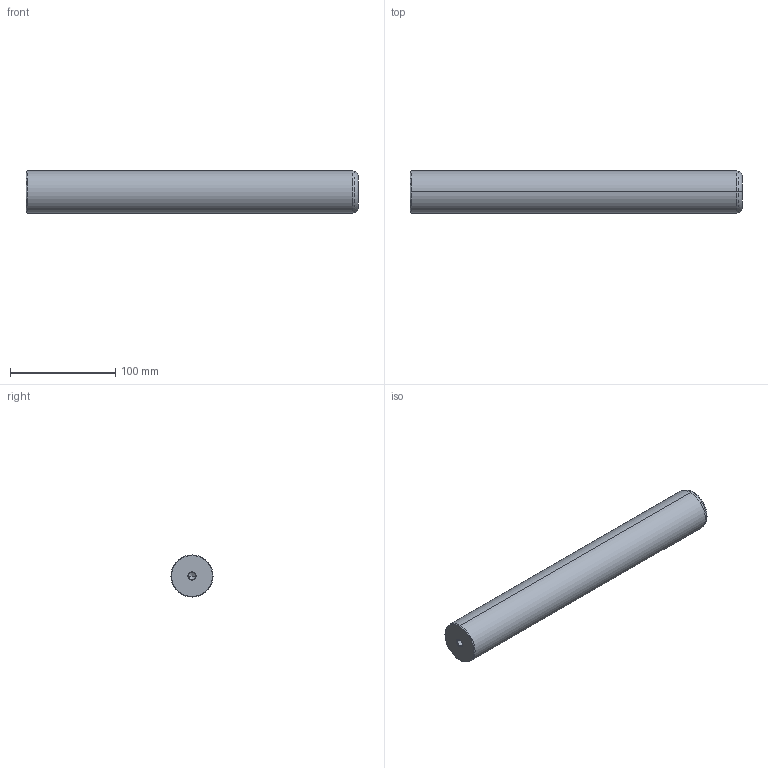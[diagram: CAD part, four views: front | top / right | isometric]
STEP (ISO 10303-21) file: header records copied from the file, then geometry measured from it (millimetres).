
FILE_DESCRIPTION(('CATIA V5 STEP Exchange'),'2;1');
FILE_NAME('C:\Users\Utente\Desktop\IO LAVORO\3D X SITO CF\X SITO\720\720-40x315.stp','2020-12-30T21:57:11+00:00',('none'),('none'),'CATIA Version 5 Release 20 GA (IN-10)','CATIA V5 STEP AP203','none');
FILE_SCHEMA(('CONFIG_CONTROL_DESIGN'));
Length unit declared in the file: millimetre
Products named in the file (1): 720-40x315
Bounding box: 315 x 40 x 40 mm (x, y, z)
Volume: 393466.9 mm3; surface area: 42768.2 mm2
Topology: 1 solids, 1 shells, 22 faces, 62 edges, 40 vertices
Faces by surface type: cone 12, cylinder 6, plane 2, torus 2
Entity records: 806 total; most frequent: CARTESIAN_POINT 229, ORIENTED_EDGE 116, DIRECTION 93, EDGE_CURVE 58, AXIS2_PLACEMENT_3D 54, VERTEX_POINT 40, CIRCLE 31, EDGE_LOOP 24
